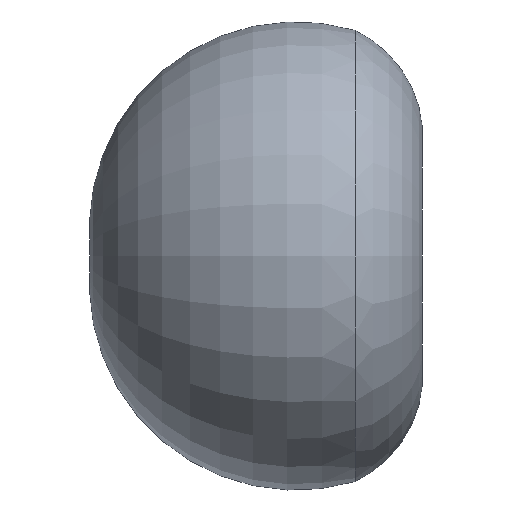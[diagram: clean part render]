
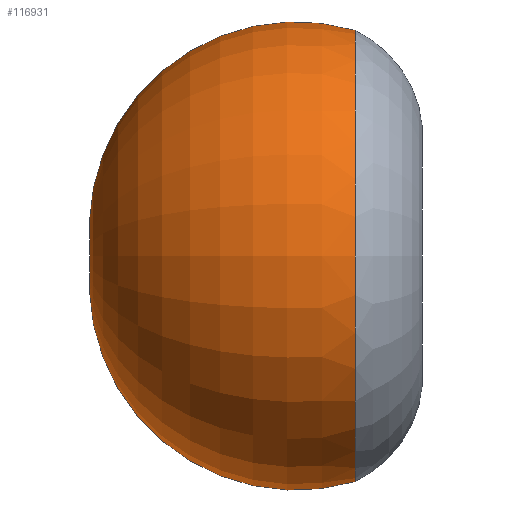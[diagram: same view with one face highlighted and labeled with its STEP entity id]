
A CAD part, left-side view. The second image highlights one B-rep face of the part: STEP entity #116931.
In plain terms, the highlighted toroidal (fillet/blend) face has major radius 350 mm and minor radius 2631.11 mm.
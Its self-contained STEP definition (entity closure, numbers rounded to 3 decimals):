
#35293 = DIRECTION ( 'NONE',  ( 0., 0., 1. ) ) ;
#35294 = DIRECTION ( 'NONE',  ( -1., 0., 0. ) ) ;
#35295 = CARTESIAN_POINT ( 'NONE',  ( 0., 830., -350. ) ) ;
#35296 = AXIS2_PLACEMENT_3D ( 'NONE', #35295, #35294, #35293 ) ;
#35297 = CIRCLE ( 'NONE', #35296, 2631.113 ) ;
#46946 = CARTESIAN_POINT ( 'NONE',  ( 0., 77.808, 2871.302 ) ) ;
#47595 = CARTESIAN_POINT ( 'NONE',  ( 0., 77.808, -2871.302 ) ) ;
#47978 = DIRECTION ( 'NONE',  ( 0., 0., -1. ) ) ;
#47980 = DIRECTION ( 'NONE',  ( 0., -1., 0. ) ) ;
#47981 = CARTESIAN_POINT ( 'NONE',  ( 0., 77.808, 0. ) ) ;
#47982 = AXIS2_PLACEMENT_3D ( 'NONE', #47981, #47980, #47978 ) ;
#47984 = CIRCLE ( 'NONE', #47982, 2871.302 ) ;
#48824 = DIRECTION ( 'NONE',  ( 0., 0., -1. ) ) ;
#48826 = DIRECTION ( 'NONE',  ( 1., 0., 0. ) ) ;
#48828 = CARTESIAN_POINT ( 'NONE',  ( 0., 830., 350. ) ) ;
#48829 = AXIS2_PLACEMENT_3D ( 'NONE', #48828, #48826, #48824 ) ;
#48831 = CIRCLE ( 'NONE', #48829, 2631.113 ) ;
#48949 = CARTESIAN_POINT ( 'NONE',  ( 0., 830., 0. ) ) ;
#49024 = DIRECTION ( 'NONE',  ( 0., 0., -1. ) ) ;
#49026 = DIRECTION ( 'NONE',  ( 0., -1., 0. ) ) ;
#49027 = AXIS2_PLACEMENT_3D ( 'NONE', #48949, #49026, #49024 ) ;
#49032 = TOROIDAL_SURFACE ( 'NONE', #49027, 350., 2631.113 ) ;
#49034 = FACE_OUTER_BOUND ( 'NONE', #116742, .T. ) ;
#49197 = CARTESIAN_POINT ( 'NONE',  ( 0., 3437.73, 0. ) ) ;
#110937 = EDGE_CURVE ( 'NONE', #117027, #116600, #35297, .T. ) ;
#116501 = VERTEX_POINT ( 'NONE', #46946 ) ;
#116569 = ORIENTED_EDGE ( 'NONE', *, *, #110937, .T. ) ;
#116600 = VERTEX_POINT ( 'NONE', #47595 ) ;
#116715 = EDGE_CURVE ( 'NONE', #116501, #116600, #47984, .T. ) ;
#116742 = EDGE_LOOP ( 'NONE', ( #116770, #116569, #116862 ) ) ;
#116770 = ORIENTED_EDGE ( 'NONE', *, *, #116890, .F. ) ;
#116862 = ORIENTED_EDGE ( 'NONE', *, *, #116715, .F. ) ;
#116890 = EDGE_CURVE ( 'NONE', #117027, #116501, #48831, .T. ) ;
#116931 = ADVANCED_FACE ( 'NONE', ( #49034 ), #49032, .T. ) ;
#117027 = VERTEX_POINT ( 'NONE', #49197 ) ;
